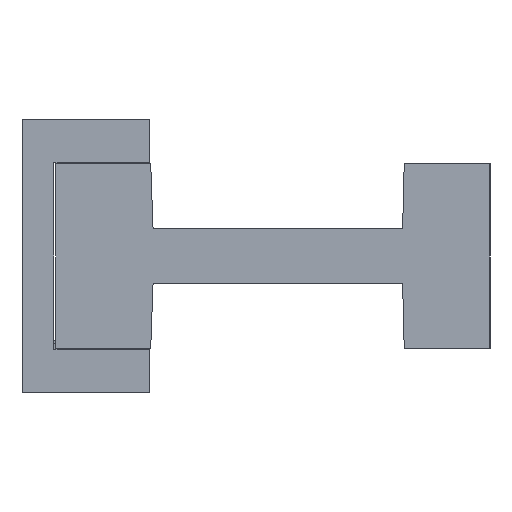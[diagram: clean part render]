
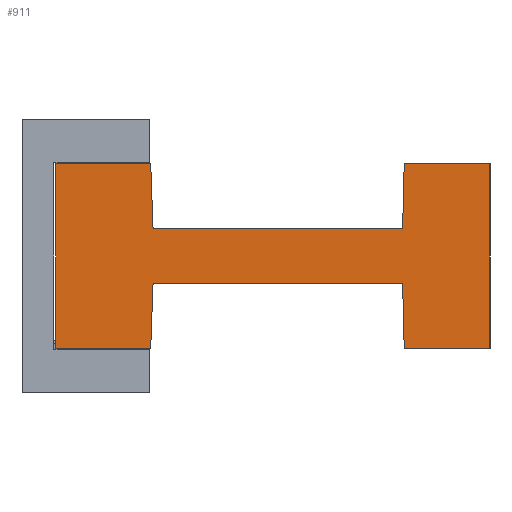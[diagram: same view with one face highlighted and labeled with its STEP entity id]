
A CAD part, left-side view. The second image highlights one B-rep face of the part: STEP entity #911.
In plain terms, the highlighted planar face has unit normal (-1, 0, 0).
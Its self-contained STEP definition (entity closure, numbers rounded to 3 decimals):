
#66 = EDGE_CURVE ( 'NONE', #4908, #3266, #4968, .T. ) ;
#122 = CARTESIAN_POINT ( 'NONE',  ( 58.513, -16.8, 240.61 ) ) ;
#272 = EDGE_CURVE ( 'NONE', #3507, #3475, #2816, .T. ) ;
#276 = VECTOR ( 'NONE', #1428, 1000. ) ;
#345 = ORIENTED_EDGE ( 'NONE', *, *, #5073, .F. ) ;
#394 = ORIENTED_EDGE ( 'NONE', *, *, #66, .T. ) ;
#445 = VECTOR ( 'NONE', #4869, 1000. ) ;
#460 = ORIENTED_EDGE ( 'NONE', *, *, #4406, .T. ) ;
#501 = CARTESIAN_POINT ( 'NONE',  ( 58.513, -4.3, 255.96 ) ) ;
#547 = VERTEX_POINT ( 'NONE', #5260 ) ;
#558 = VERTEX_POINT ( 'NONE', #7072 ) ;
#590 = EDGE_LOOP ( 'NONE', ( #1986, #4450, #2912, #1810, #2777, #345, #3333, #1271, #5227, #394, #460, #2883 ) ) ;
#725 = LINE ( 'NONE', #1375, #6376 ) ;
#762 = CARTESIAN_POINT ( 'NONE',  ( 58.513, -16.5, 232.26 ) ) ;
#810 = CARTESIAN_POINT ( 'NONE',  ( 58.513, -49., 232.26 ) ) ;
#847 = CARTESIAN_POINT ( 'NONE',  ( 58.513, -60., 232.26 ) ) ;
#896 = CARTESIAN_POINT ( 'NONE',  ( 58.513, -48.8, 240.61 ) ) ;
#911 = ADVANCED_FACE ( 'NONE', ( #2398 ), #4742, .T. ) ;
#1028 = LINE ( 'NONE', #3467, #7800 ) ;
#1061 = EDGE_CURVE ( 'NONE', #6784, #3829, #3419, .T. ) ;
#1271 = ORIENTED_EDGE ( 'NONE', *, *, #7488, .T. ) ;
#1275 = DIRECTION ( 'NONE',  ( -1., 0., 0. ) ) ;
#1375 = CARTESIAN_POINT ( 'NONE',  ( 58.513, -4.3, 232.26 ) ) ;
#1391 = DIRECTION ( 'NONE',  ( 0., 0., 1. ) ) ;
#1428 = DIRECTION ( 'NONE',  ( 0., 1., 0. ) ) ;
#1435 = DIRECTION ( 'NONE',  ( 0., 0.036, -0.999 ) ) ;
#1593 = CARTESIAN_POINT ( 'NONE',  ( 58.513, -48.8, 240.61 ) ) ;
#1608 = LINE ( 'NONE', #5728, #3881 ) ;
#1679 = LINE ( 'NONE', #4108, #3368 ) ;
#1736 = CARTESIAN_POINT ( 'NONE',  ( 58.513, -60., 232.26 ) ) ;
#1810 = ORIENTED_EDGE ( 'NONE', *, *, #2272, .F. ) ;
#1971 = VECTOR ( 'NONE', #3908, 1000. ) ;
#1986 = ORIENTED_EDGE ( 'NONE', *, *, #6279, .T. ) ;
#2129 = VECTOR ( 'NONE', #2747, 1000. ) ;
#2209 = VECTOR ( 'NONE', #3961, 1000. ) ;
#2232 = DIRECTION ( 'NONE',  ( 0., 1., 0. ) ) ;
#2272 = EDGE_CURVE ( 'NONE', #3829, #5638, #2447, .T. ) ;
#2398 = FACE_OUTER_BOUND ( 'NONE', #590, .T. ) ;
#2447 = LINE ( 'NONE', #3526, #445 ) ;
#2725 = CARTESIAN_POINT ( 'NONE',  ( 58.513, -4.3, 232.26 ) ) ;
#2747 = DIRECTION ( 'NONE',  ( 0., 0.024, 1. ) ) ;
#2777 = ORIENTED_EDGE ( 'NONE', *, *, #1061, .F. ) ;
#2816 = LINE ( 'NONE', #3270, #1971 ) ;
#2883 = ORIENTED_EDGE ( 'NONE', *, *, #7425, .T. ) ;
#2912 = ORIENTED_EDGE ( 'NONE', *, *, #3025, .F. ) ;
#3025 = EDGE_CURVE ( 'NONE', #5638, #3494, #6865, .T. ) ;
#3266 = VERTEX_POINT ( 'NONE', #6336 ) ;
#3270 = CARTESIAN_POINT ( 'NONE',  ( 58.513, -60., 244.11 ) ) ;
#3333 = ORIENTED_EDGE ( 'NONE', *, *, #272, .T. ) ;
#3368 = VECTOR ( 'NONE', #3514, 1000. ) ;
#3392 = CARTESIAN_POINT ( 'NONE',  ( 58.513, -48.8, 247.61 ) ) ;
#3419 = LINE ( 'NONE', #1593, #2129 ) ;
#3467 = CARTESIAN_POINT ( 'NONE',  ( 58.513, -4.3, 255.96 ) ) ;
#3475 = VERTEX_POINT ( 'NONE', #7303 ) ;
#3494 = VERTEX_POINT ( 'NONE', #762 ) ;
#3507 = VERTEX_POINT ( 'NONE', #847 ) ;
#3514 = DIRECTION ( 'NONE',  ( 0., 1., 0. ) ) ;
#3526 = CARTESIAN_POINT ( 'NONE',  ( 58.513, -16.8, 240.61 ) ) ;
#3561 = DIRECTION ( 'NONE',  ( 0., 0., -1. ) ) ;
#3741 = VERTEX_POINT ( 'NONE', #5402 ) ;
#3829 = VERTEX_POINT ( 'NONE', #896 ) ;
#3881 = VECTOR ( 'NONE', #6919, 1000. ) ;
#3908 = DIRECTION ( 'NONE',  ( 0., 0., 1. ) ) ;
#3961 = DIRECTION ( 'NONE',  ( 0., 0.024, -1. ) ) ;
#4062 = EDGE_CURVE ( 'NONE', #3494, #4437, #725, .T. ) ;
#4108 = CARTESIAN_POINT ( 'NONE',  ( 58.513, -60., 255.96 ) ) ;
#4121 = LINE ( 'NONE', #1736, #6403 ) ;
#4237 = DIRECTION ( 'NONE',  ( 0., 1., 0. ) ) ;
#4297 = CARTESIAN_POINT ( 'NONE',  ( 58.513, -16.8, 240.61 ) ) ;
#4396 = AXIS2_PLACEMENT_3D ( 'NONE', #5086, #1275, #1391 ) ;
#4406 = EDGE_CURVE ( 'NONE', #3266, #558, #1608, .T. ) ;
#4437 = VERTEX_POINT ( 'NONE', #2725 ) ;
#4450 = ORIENTED_EDGE ( 'NONE', *, *, #4062, .F. ) ;
#4742 = PLANE ( 'NONE',  #4396 ) ;
#4869 = DIRECTION ( 'NONE',  ( 0., 1., 0. ) ) ;
#4908 = VERTEX_POINT ( 'NONE', #4958 ) ;
#4958 = CARTESIAN_POINT ( 'NONE',  ( 58.513, -48.8, 247.61 ) ) ;
#4968 = LINE ( 'NONE', #6857, #276 ) ;
#5073 = EDGE_CURVE ( 'NONE', #3507, #6784, #4121, .T. ) ;
#5086 = CARTESIAN_POINT ( 'NONE',  ( 58.513, -60., 244.11 ) ) ;
#5227 = ORIENTED_EDGE ( 'NONE', *, *, #7381, .T. ) ;
#5260 = CARTESIAN_POINT ( 'NONE',  ( 58.513, -4.3, 255.96 ) ) ;
#5402 = CARTESIAN_POINT ( 'NONE',  ( 58.513, -49., 255.96 ) ) ;
#5638 = VERTEX_POINT ( 'NONE', #4297 ) ;
#5707 = VECTOR ( 'NONE', #1435, 1000. ) ;
#5728 = CARTESIAN_POINT ( 'NONE',  ( 58.513, -16.8, 247.61 ) ) ;
#6219 = VECTOR ( 'NONE', #3561, 1000. ) ;
#6279 = EDGE_CURVE ( 'NONE', #547, #4437, #6571, .T. ) ;
#6336 = CARTESIAN_POINT ( 'NONE',  ( 58.513, -16.8, 247.61 ) ) ;
#6376 = VECTOR ( 'NONE', #7500, 1000. ) ;
#6387 = LINE ( 'NONE', #3392, #2209 ) ;
#6403 = VECTOR ( 'NONE', #4237, 1000. ) ;
#6571 = LINE ( 'NONE', #501, #6219 ) ;
#6784 = VERTEX_POINT ( 'NONE', #810 ) ;
#6857 = CARTESIAN_POINT ( 'NONE',  ( 58.513, -16.8, 247.61 ) ) ;
#6865 = LINE ( 'NONE', #122, #5707 ) ;
#6919 = DIRECTION ( 'NONE',  ( 0., 0.036, 0.999 ) ) ;
#7072 = CARTESIAN_POINT ( 'NONE',  ( 58.513, -16.5, 255.96 ) ) ;
#7303 = CARTESIAN_POINT ( 'NONE',  ( 58.513, -60., 255.96 ) ) ;
#7381 = EDGE_CURVE ( 'NONE', #3741, #4908, #6387, .T. ) ;
#7425 = EDGE_CURVE ( 'NONE', #558, #547, #1028, .T. ) ;
#7488 = EDGE_CURVE ( 'NONE', #3475, #3741, #1679, .T. ) ;
#7500 = DIRECTION ( 'NONE',  ( 0., 1., 0. ) ) ;
#7800 = VECTOR ( 'NONE', #2232, 1000. ) ;
